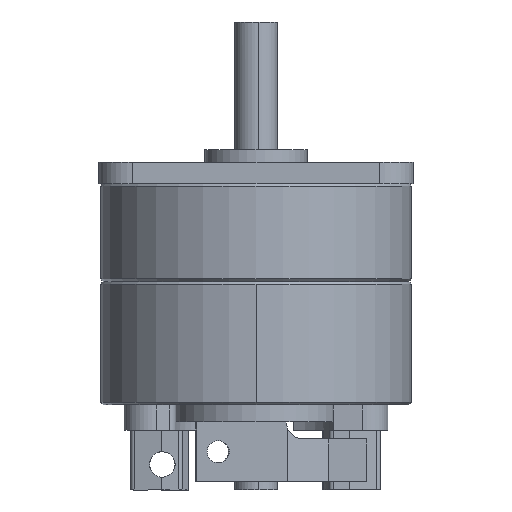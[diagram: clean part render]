
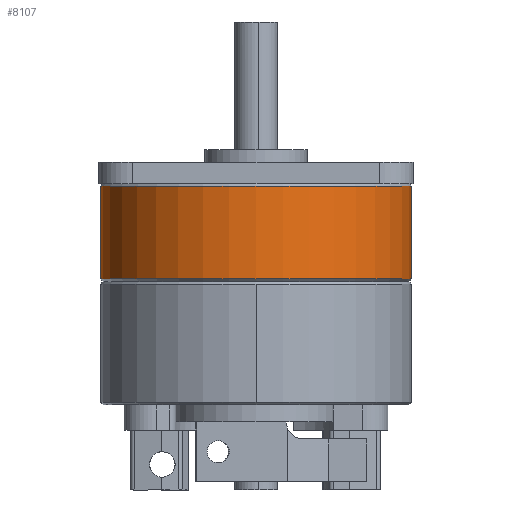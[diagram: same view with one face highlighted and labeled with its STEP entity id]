
A CAD part, front view. The second image highlights one B-rep face of the part: STEP entity #8107.
In plain terms, the highlighted cylindrical face has radius 18.25 mm (diameter 36.5 mm), a partial arc.
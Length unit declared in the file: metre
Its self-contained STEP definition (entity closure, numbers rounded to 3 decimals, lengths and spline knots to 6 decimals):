
#629 = CIRCLE ( 'NONE', #11203, 0.01825 ) ;
#667 = DIRECTION ( 'NONE',  ( 1., 0., 0. ) ) ;
#798 = CARTESIAN_POINT ( 'NONE',  ( 0., 0., -0.0112 ) ) ;
#1414 = EDGE_LOOP ( 'NONE', ( #10582, #10016, #10149, #13984 ) ) ;
#1826 = VERTEX_POINT ( 'NONE', #13927 ) ;
#1837 = AXIS2_PLACEMENT_3D ( 'NONE', #798, #1933, #667 ) ;
#1933 = DIRECTION ( 'NONE',  ( 0., 0., 1. ) ) ;
#2023 = CIRCLE ( 'NONE', #11119, 0.01825 ) ;
#2791 = VERTEX_POINT ( 'NONE', #5701 ) ;
#3351 = VERTEX_POINT ( 'NONE', #8990 ) ;
#3783 = VERTEX_POINT ( 'NONE', #11324 ) ;
#4009 = CARTESIAN_POINT ( 'NONE',  ( 0.01825, 0., -0.0112 ) ) ;
#4220 = CARTESIAN_POINT ( 'NONE',  ( -0.01825, 0., -0.0112 ) ) ;
#4275 = DIRECTION ( 'NONE',  ( 0., 0., 1. ) ) ;
#4309 = DIRECTION ( 'NONE',  ( 0., 0., 1. ) ) ;
#4457 = CYLINDRICAL_SURFACE ( 'NONE', #1837, 0.01825 ) ;
#5440 = EDGE_CURVE ( 'NONE', #1826, #2791, #14565, .T. ) ;
#5444 = EDGE_CURVE ( 'NONE', #3783, #3351, #14221, .T. ) ;
#5701 = CARTESIAN_POINT ( 'NONE',  ( -0.01825, 0., -0.0003 ) ) ;
#6021 = EDGE_CURVE ( 'NONE', #3783, #1826, #2023, .T. ) ;
#6024 = EDGE_CURVE ( 'NONE', #3351, #2791, #629, .T. ) ;
#8107 = ADVANCED_FACE ( 'NONE', ( #11697 ), #4457, .T. ) ;
#8990 = CARTESIAN_POINT ( 'NONE',  ( 0.01825, 0., -0.0003 ) ) ;
#9940 = CARTESIAN_POINT ( 'NONE',  ( 0., 0., -0.0112 ) ) ;
#9960 = DIRECTION ( 'NONE',  ( 0., 0., -1. ) ) ;
#10013 = DIRECTION ( 'NONE',  ( 1., 0., 0. ) ) ;
#10016 = ORIENTED_EDGE ( 'NONE', *, *, #6021, .F. ) ;
#10088 = CARTESIAN_POINT ( 'NONE',  ( 0., 0., -0.0003 ) ) ;
#10109 = DIRECTION ( 'NONE',  ( 0., 0., -1. ) ) ;
#10129 = DIRECTION ( 'NONE',  ( -1., 0., 0. ) ) ;
#10149 = ORIENTED_EDGE ( 'NONE', *, *, #5444, .T. ) ;
#10582 = ORIENTED_EDGE ( 'NONE', *, *, #5440, .F. ) ;
#11119 = AXIS2_PLACEMENT_3D ( 'NONE', #9940, #9960, #10013 ) ;
#11203 = AXIS2_PLACEMENT_3D ( 'NONE', #10088, #10109, #10129 ) ;
#11324 = CARTESIAN_POINT ( 'NONE',  ( 0.01825, 0., -0.0112 ) ) ;
#11697 = FACE_OUTER_BOUND ( 'NONE', #1414, .T. ) ;
#13927 = CARTESIAN_POINT ( 'NONE',  ( -0.01825, 0., -0.0112 ) ) ;
#13984 = ORIENTED_EDGE ( 'NONE', *, *, #6024, .T. ) ;
#14045 = VECTOR ( 'NONE', #4309, 1. ) ;
#14195 = VECTOR ( 'NONE', #4275, 1. ) ;
#14221 = LINE ( 'NONE', #4009, #14045 ) ;
#14565 = LINE ( 'NONE', #4220, #14195 ) ;
